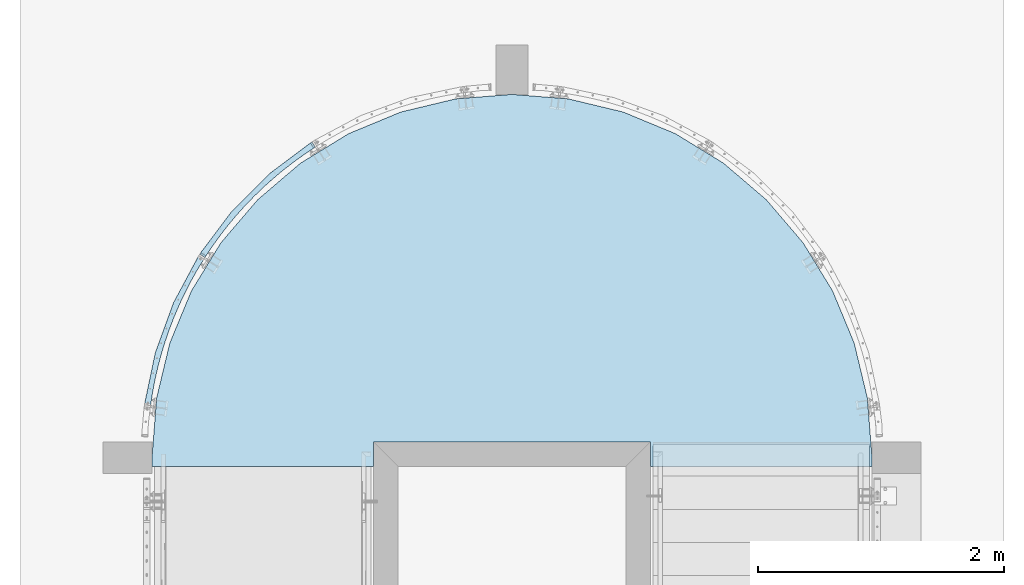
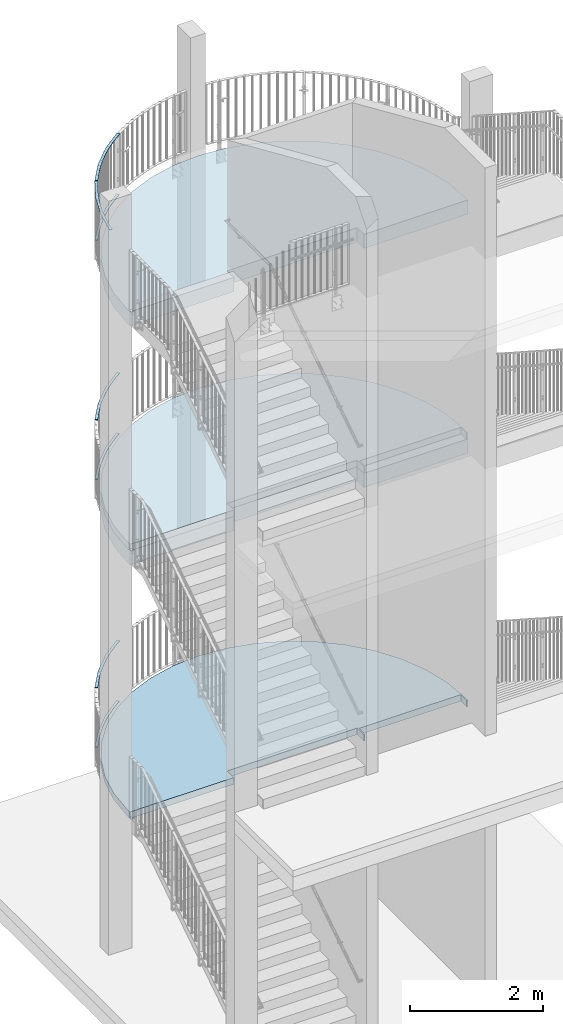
# One storey, part 104 of 296: 7 plates, 4 slabs, 28 openings.
"""IFC2X3 building model written with IfcOpenShell, lengths in millimetres."""

from ifc_helpers import new_model, entity, si_unit, converted_unit, point, frame, frame_2d, origin, origin_with_axes, place, context, project, spatial, polyline, circle_curve, line_curve, trimmed, segment, composite_curve, outline, extrude, material, layer, layer_set, element, save


model = new_model("IFC2X3")

# Units and contexts
model_context = context("Model", 3, precision=1e-09, world=origin_with_axes())
ifc_project = project(units=[si_unit("LENGTHUNIT", "METRE", prefix="MILLI"), si_unit("AREAUNIT", "SQUARE_METRE"), si_unit("VOLUMEUNIT", "CUBIC_METRE"), converted_unit("PLANEANGLEUNIT", "DEGREE", entity("IfcPlaneAngleMeasure", 0.01745329), si_unit("PLANEANGLEUNIT", "RADIAN"), dimensions=[0, 0, 0, 0, 0, 0, 0])], contexts=[model_context])

# Site, building, storey
site_placement = place(None, origin_with_axes())
site = spatial("IfcSite", under=ifc_project, at=site_placement, Name="TZD-S?d | Treppenhausgel?nder", CompositionType="ELEMENT")
building_placement = place(site_placement, origin_with_axes())
building = spatial("IfcBuilding", under=site, at=building_placement, Name="Struktur 1", CompositionType="ELEMENT")
storey_placement = place(building_placement, origin_with_axes())
storey = spatial("IfcBuildingStorey", under=building, at=storey_placement, Name="Default Storey", CompositionType="ELEMENT", Elevation=0.0)

# Plate, openings
ifc_material_1 = material(Name="S235JR")
ifc_layer_1 = layer(ifc_material_1, 10.0)
ifc_layer_set_1 = layer_set([ifc_layer_1], Name="S235JR")
plate_1_placement = place(None, frame((386.212405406, 1526.278742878, 8440.0), z_axis=(0.0, 0.0, 1.0), x_axis=(0.843391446, -0.537299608, 0.0)))
plate_1 = element("IfcPlate", 1, at=plate_1_placement, inside=storey, material=ifc_layer_set_1, Name="Girder", ObjectType="Girder", context=model_context, shape_type="SweptSolid", body=[
    extrude(outline(polyline([(0.0, 0.0), (50.000157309, 0.0), (3014.990671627, -7.500000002), (324.627043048, 1238.761828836), (279.311511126, 1259.892808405), (1.643147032, 660.543062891), (0.0, 0.0)])), origin_with_axes(), (0.0, 0.0, 1.0), 10.0),
])
opening_1_placement = place(plate_1_placement, frame((0.0, 0.0, -0.01), z_axis=(0.0, 0.0, 1.0), x_axis=(1.0, 0.0, 0.0)))
element("IfcOpeningElement", 2, at=opening_1_placement, cuts=plate_1, ObjectType="Opening", context=model_context, shape_type="SweptSolid", body=[
    extrude(outline(composite_curve([segment(trimmed(line_curve((3014.990671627, -7.500000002), (-0.907373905, 0.420324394), 2965.0), [point((3014.990671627, -7.500000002))], [point((324.627043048, 1238.761828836))], True, "CARTESIAN"), True, "CONTINUOUS"), segment(trimmed(circle_curve(frame_2d((3014.990671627, -7.500000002), x_axis=(1.0, 0.0)), 2965.0), [point((324.627043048, 1238.761828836))], [point((50.000157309, 0.0))], True, "CARTESIAN"), True, "CONTINUOUS"), segment(trimmed(line_curve((50.000157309, 0.0), (0.999996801, -0.002529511), 2965.0), [point((50.000157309, 0.0))], [point((3014.990671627, -7.500000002))], True, "CARTESIAN"), True, "CONTINUOUS")], self_intersect=False)), origin(), (0.0, 0.0, 1.0), 10.02),
])
opening_2_placement = place(plate_1_placement, frame((0.0, 0.0, -0.01), z_axis=(0.0, 0.0, 1.0), x_axis=(1.0, 0.0, 0.0)))
element("IfcOpeningElement", 3, at=opening_2_placement, cuts=plate_1, ObjectType="Opening", context=model_context, shape_type="SweptSolid", body=[
    extrude(outline(composite_curve([segment(trimmed(line_curve((1.643147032, 660.543062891), (-0.002487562, -0.999996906), 660.54510661), [point((1.643147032, 660.543062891))], [point((0.0, 0.0))], True, "CARTESIAN"), True, "CONTINUOUS"), segment(trimmed(circle_curve(frame_2d((3014.990671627, -7.500000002), x_axis=(-1.0, 0.0)), 3015.0), [point((0.0, 0.0))], [point((279.311511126, 1259.892808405))], False, "CARTESIAN"), True, "CONTINUOUS"), segment(trimmed(line_curve((279.311511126, 1259.892808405), (-0.420362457, -0.907356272), 660.54510661), [point((279.311511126, 1259.892808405))], [point((1.643147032, 660.543062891))], True, "CARTESIAN"), True, "CONTINUOUS")], self_intersect=False)), origin(), (0.0, 0.0, 1.0), 10.02),
])

plate_2_placement = place(None, frame((436.505606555, 1512.023775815, 7350.0), z_axis=(0.0, 0.0, -1.0), x_axis=(-0.843391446, 0.537299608, 0.0)))
plate_2 = element("IfcPlate", 4, at=plate_2_placement, inside=storey, material=ifc_layer_set_1, Name="-", ObjectType="-", context=model_context, shape_type="SweptSolid", body=[
    extrude(outline(polyline([(0.0, 0.0), (50.001415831, 0.0), (45.189162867, 644.823944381), (-222.963829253, 1231.266652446), (-268.280501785, 1210.135141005), (-2964.914627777, -22.499999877), (0.0, 0.0)])), origin_with_axes(), (0.0, 0.0, 1.0), 10.0),
])
opening_3_placement = place(plate_2_placement, frame((0.0, 0.0, -0.01), z_axis=(0.0, 0.0, 1.0), x_axis=(1.0, 0.0, 0.0)))
element("IfcOpeningElement", 5, at=opening_3_placement, cuts=plate_2, ObjectType="Opening", context=model_context, shape_type="SweptSolid", body=[
    extrude(outline(composite_curve([segment(trimmed(line_curve((45.189162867, 644.823944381), (-0.415843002, 0.909436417), 644.841900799), [point((45.189162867, 644.823944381))], [point((-222.963829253, 1231.266652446))], True, "CARTESIAN"), True, "CONTINUOUS"), segment(trimmed(circle_curve(frame_2d((-2964.914627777, -22.499999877), x_axis=(-1.0, 0.0)), 3015.0), [point((-222.963829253, 1231.266652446))], [point((50.001415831, 0.0))], False, "CARTESIAN"), True, "CONTINUOUS"), segment(trimmed(line_curve((50.001415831, 0.0), (-0.007462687, 0.999972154), 644.841900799), [point((50.001415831, 0.0))], [point((45.189162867, 644.823944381))], True, "CARTESIAN"), True, "CONTINUOUS")], self_intersect=False)), origin(), (0.0, 0.0, 1.0), 10.02),
])
opening_4_placement = place(plate_2_placement, frame((0.0, 0.0, -0.01), z_axis=(0.0, 0.0, 1.0), x_axis=(1.0, 0.0, 0.0)))
element("IfcOpeningElement", 6, at=opening_4_placement, cuts=plate_2, ObjectType="Opening", context=model_context, shape_type="SweptSolid", body=[
    extrude(outline(composite_curve([segment(trimmed(line_curve((-2964.914627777, -22.499999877), (0.999971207, 0.007588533), 2965.0), [point((-2964.914627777, -22.499999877))], [point((0.0, 0.0))], True, "CARTESIAN"), True, "CONTINUOUS"), segment(trimmed(circle_curve(frame_2d((-2964.914627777, -22.499999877), x_axis=(1.0, 0.0)), 2965.0), [point((0.0, 0.0))], [point((-268.280501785, 1210.135141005))], True, "CARTESIAN"), True, "CONTINUOUS"), segment(trimmed(line_curve((-268.280501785, 1210.135141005), (-0.909488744, -0.415728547), 2965.0), [point((-268.280501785, 1210.135141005))], [point((-2964.914627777, -22.499999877))], True, "CARTESIAN"), True, "CONTINUOUS")], self_intersect=False)), origin(), (0.0, 0.0, 1.0), 10.02),
])

plate_3_placement = place(None, frame((386.212405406, 1526.278742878, 3540.0), z_axis=(0.0, 0.0, 1.0), x_axis=(0.843391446, -0.537299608, 0.0)))
plate_3 = element("IfcPlate", 7, at=plate_3_placement, inside=storey, material=ifc_layer_set_1, Name="Girder", ObjectType="Girder", context=model_context, shape_type="SweptSolid", body=[
    extrude(outline(polyline([(0.0, 0.0), (50.000157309, 0.0), (3014.990671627, -7.500000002), (324.627043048, 1238.761828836), (279.311511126, 1259.892808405), (1.643147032, 660.543062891), (0.0, 0.0)])), origin_with_axes(), (0.0, 0.0, 1.0), 10.0),
])
opening_5_placement = place(plate_3_placement, frame((0.0, 0.0, -0.01), z_axis=(0.0, 0.0, 1.0), x_axis=(1.0, 0.0, 0.0)))
element("IfcOpeningElement", 8, at=opening_5_placement, cuts=plate_3, ObjectType="Opening", context=model_context, shape_type="SweptSolid", body=[
    extrude(outline(composite_curve([segment(trimmed(line_curve((3014.990671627, -7.500000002), (-0.907373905, 0.420324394), 2965.0), [point((3014.990671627, -7.500000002))], [point((324.627043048, 1238.761828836))], True, "CARTESIAN"), True, "CONTINUOUS"), segment(trimmed(circle_curve(frame_2d((3014.990671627, -7.500000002), x_axis=(1.0, 0.0)), 2965.0), [point((324.627043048, 1238.761828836))], [point((50.000157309, 0.0))], True, "CARTESIAN"), True, "CONTINUOUS"), segment(trimmed(line_curve((50.000157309, 0.0), (0.999996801, -0.002529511), 2965.0), [point((50.000157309, 0.0))], [point((3014.990671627, -7.500000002))], True, "CARTESIAN"), True, "CONTINUOUS")], self_intersect=False)), origin(), (0.0, 0.0, 1.0), 10.02),
])
opening_6_placement = place(plate_3_placement, frame((0.0, 0.0, -0.01), z_axis=(0.0, 0.0, 1.0), x_axis=(1.0, 0.0, 0.0)))
element("IfcOpeningElement", 9, at=opening_6_placement, cuts=plate_3, ObjectType="Opening", context=model_context, shape_type="SweptSolid", body=[
    extrude(outline(composite_curve([segment(trimmed(line_curve((1.643147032, 660.543062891), (-0.002487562, -0.999996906), 660.54510661), [point((1.643147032, 660.543062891))], [point((0.0, 0.0))], True, "CARTESIAN"), True, "CONTINUOUS"), segment(trimmed(circle_curve(frame_2d((3014.990671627, -7.500000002), x_axis=(-1.0, 0.0)), 3015.0), [point((0.0, 0.0))], [point((279.311511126, 1259.892808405))], False, "CARTESIAN"), True, "CONTINUOUS"), segment(trimmed(line_curve((279.311511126, 1259.892808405), (-0.420362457, -0.907356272), 660.54510661), [point((279.311511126, 1259.892808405))], [point((1.643147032, 660.543062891))], True, "CARTESIAN"), True, "CONTINUOUS")], self_intersect=False)), origin(), (0.0, 0.0, 1.0), 10.02),
])

plate_4_placement = place(None, frame((436.505606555, 1512.023775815, 2450.0), z_axis=(0.0, 0.0, -1.0), x_axis=(-0.843391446, 0.537299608, 0.0)))
plate_4 = element("IfcPlate", 10, at=plate_4_placement, inside=storey, material=ifc_layer_set_1, Name="-", ObjectType="-", context=model_context, shape_type="SweptSolid", body=[
    extrude(outline(polyline([(0.0, 0.0), (50.001415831, 0.0), (45.189162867, 644.823944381), (-222.963829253, 1231.266652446), (-268.280501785, 1210.135141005), (-2964.914627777, -22.499999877), (0.0, 0.0)])), origin_with_axes(), (0.0, 0.0, 1.0), 10.0),
])
opening_7_placement = place(plate_4_placement, frame((0.0, 0.0, -0.01), z_axis=(0.0, 0.0, 1.0), x_axis=(1.0, 0.0, 0.0)))
element("IfcOpeningElement", 11, at=opening_7_placement, cuts=plate_4, ObjectType="Opening", context=model_context, shape_type="SweptSolid", body=[
    extrude(outline(composite_curve([segment(trimmed(line_curve((45.189162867, 644.823944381), (-0.415843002, 0.909436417), 644.841900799), [point((45.189162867, 644.823944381))], [point((-222.963829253, 1231.266652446))], True, "CARTESIAN"), True, "CONTINUOUS"), segment(trimmed(circle_curve(frame_2d((-2964.914627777, -22.499999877), x_axis=(-1.0, 0.0)), 3015.0), [point((-222.963829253, 1231.266652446))], [point((50.001415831, 0.0))], False, "CARTESIAN"), True, "CONTINUOUS"), segment(trimmed(line_curve((50.001415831, 0.0), (-0.007462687, 0.999972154), 644.841900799), [point((50.001415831, 0.0))], [point((45.189162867, 644.823944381))], True, "CARTESIAN"), True, "CONTINUOUS")], self_intersect=False)), origin(), (0.0, 0.0, 1.0), 10.02),
])
opening_8_placement = place(plate_4_placement, frame((0.0, 0.0, -0.01), z_axis=(0.0, 0.0, 1.0), x_axis=(1.0, 0.0, 0.0)))
element("IfcOpeningElement", 12, at=opening_8_placement, cuts=plate_4, ObjectType="Opening", context=model_context, shape_type="SweptSolid", body=[
    extrude(outline(composite_curve([segment(trimmed(line_curve((-2964.914627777, -22.499999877), (0.999971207, 0.007588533), 2965.0), [point((-2964.914627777, -22.499999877))], [point((0.0, 0.0))], True, "CARTESIAN"), True, "CONTINUOUS"), segment(trimmed(circle_curve(frame_2d((-2964.914627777, -22.499999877), x_axis=(1.0, 0.0)), 2965.0), [point((0.0, 0.0))], [point((-268.280501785, 1210.135141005))], True, "CARTESIAN"), True, "CONTINUOUS"), segment(trimmed(line_curve((-268.280501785, 1210.135141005), (-0.909488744, -0.415728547), 2965.0), [point((-268.280501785, 1210.135141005))], [point((-2964.914627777, -22.499999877))], True, "CARTESIAN"), True, "CONTINUOUS")], self_intersect=False)), origin(), (0.0, 0.0, 1.0), 10.02),
])

plate_5_placement = place(None, frame((436.505606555, 1512.023775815, 11725.0), z_axis=(0.0, 0.0, -1.0), x_axis=(-0.843391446, 0.537299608, 0.0)))
plate_5 = element("IfcPlate", 13, at=plate_5_placement, inside=storey, material=ifc_layer_set_1, Name="-", ObjectType="-", context=model_context, shape_type="SweptSolid", body=[
    extrude(outline(polyline([(0.0, 0.0), (50.001415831, 0.0), (45.189162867, 644.823944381), (-222.963829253, 1231.266652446), (-268.280501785, 1210.135141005), (-2964.914627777, -22.499999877), (0.0, 0.0)])), origin_with_axes(), (0.0, 0.0, 1.0), 10.0),
])
opening_9_placement = place(plate_5_placement, frame((0.0, 0.0, -0.01), z_axis=(0.0, 0.0, 1.0), x_axis=(1.0, 0.0, 0.0)))
element("IfcOpeningElement", 14, at=opening_9_placement, cuts=plate_5, ObjectType="Opening", context=model_context, shape_type="SweptSolid", body=[
    extrude(outline(composite_curve([segment(trimmed(line_curve((45.189162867, 644.823944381), (-0.415843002, 0.909436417), 644.841900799), [point((45.189162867, 644.823944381))], [point((-222.963829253, 1231.266652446))], True, "CARTESIAN"), True, "CONTINUOUS"), segment(trimmed(circle_curve(frame_2d((-2964.914627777, -22.499999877), x_axis=(-1.0, 0.0)), 3015.0), [point((-222.963829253, 1231.266652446))], [point((50.001415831, 0.0))], False, "CARTESIAN"), True, "CONTINUOUS"), segment(trimmed(line_curve((50.001415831, 0.0), (-0.007462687, 0.999972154), 644.841900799), [point((50.001415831, 0.0))], [point((45.189162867, 644.823944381))], True, "CARTESIAN"), True, "CONTINUOUS")], self_intersect=False)), origin(), (0.0, 0.0, 1.0), 10.02),
])
opening_10_placement = place(plate_5_placement, frame((0.0, 0.0, -0.01), z_axis=(0.0, 0.0, 1.0), x_axis=(1.0, 0.0, 0.0)))
element("IfcOpeningElement", 15, at=opening_10_placement, cuts=plate_5, ObjectType="Opening", context=model_context, shape_type="SweptSolid", body=[
    extrude(outline(composite_curve([segment(trimmed(line_curve((-2964.914627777, -22.499999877), (0.999971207, 0.007588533), 2965.0), [point((-2964.914627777, -22.499999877))], [point((0.0, 0.0))], True, "CARTESIAN"), True, "CONTINUOUS"), segment(trimmed(circle_curve(frame_2d((-2964.914627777, -22.499999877), x_axis=(1.0, 0.0)), 2965.0), [point((0.0, 0.0))], [point((-268.280501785, 1210.135141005))], True, "CARTESIAN"), True, "CONTINUOUS"), segment(trimmed(line_curve((-268.280501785, 1210.135141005), (-0.909488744, -0.415728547), 2965.0), [point((-268.280501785, 1210.135141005))], [point((-2964.914627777, -22.499999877))], True, "CARTESIAN"), True, "CONTINUOUS")], self_intersect=False)), origin(), (0.0, 0.0, 1.0), 10.02),
])

plate_6_placement = place(None, frame((386.212405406, 1526.278742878, 12815.0), z_axis=(0.0, 0.0, 1.0), x_axis=(0.843391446, -0.537299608, 0.0)))
plate_6 = element("IfcPlate", 16, at=plate_6_placement, inside=storey, material=ifc_layer_set_1, Name="Girder", ObjectType="Girder", context=model_context, shape_type="SweptSolid", body=[
    extrude(outline(polyline([(0.0, 0.0), (50.000157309, 0.0), (3014.990671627, -7.500000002), (324.627043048, 1238.761828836), (279.311511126, 1259.892808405), (1.643147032, 660.543062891), (0.0, 0.0)])), origin_with_axes(), (0.0, 0.0, 1.0), 10.0),
])
opening_11_placement = place(plate_6_placement, frame((0.0, 0.0, -0.01), z_axis=(0.0, 0.0, 1.0), x_axis=(1.0, 0.0, 0.0)))
element("IfcOpeningElement", 17, at=opening_11_placement, cuts=plate_6, ObjectType="Opening", context=model_context, shape_type="SweptSolid", body=[
    extrude(outline(composite_curve([segment(trimmed(line_curve((3014.990671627, -7.500000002), (-0.907373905, 0.420324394), 2965.0), [point((3014.990671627, -7.500000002))], [point((324.627043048, 1238.761828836))], True, "CARTESIAN"), True, "CONTINUOUS"), segment(trimmed(circle_curve(frame_2d((3014.990671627, -7.500000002), x_axis=(1.0, 0.0)), 2965.0), [point((324.627043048, 1238.761828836))], [point((50.000157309, 0.0))], True, "CARTESIAN"), True, "CONTINUOUS"), segment(trimmed(line_curve((50.000157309, 0.0), (0.999996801, -0.002529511), 2965.0), [point((50.000157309, 0.0))], [point((3014.990671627, -7.500000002))], True, "CARTESIAN"), True, "CONTINUOUS")], self_intersect=False)), origin(), (0.0, 0.0, 1.0), 10.02),
])
opening_12_placement = place(plate_6_placement, frame((0.0, 0.0, -0.01), z_axis=(0.0, 0.0, 1.0), x_axis=(1.0, 0.0, 0.0)))
element("IfcOpeningElement", 18, at=opening_12_placement, cuts=plate_6, ObjectType="Opening", context=model_context, shape_type="SweptSolid", body=[
    extrude(outline(composite_curve([segment(trimmed(line_curve((1.643147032, 660.543062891), (-0.002487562, -0.999996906), 660.54510661), [point((1.643147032, 660.543062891))], [point((0.0, 0.0))], True, "CARTESIAN"), True, "CONTINUOUS"), segment(trimmed(circle_curve(frame_2d((3014.990671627, -7.500000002), x_axis=(-1.0, 0.0)), 3015.0), [point((0.0, 0.0))], [point((279.311511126, 1259.892808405))], False, "CARTESIAN"), True, "CONTINUOUS"), segment(trimmed(line_curve((279.311511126, 1259.892808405), (-0.420362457, -0.907356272), 660.54510661), [point((279.311511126, 1259.892808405))], [point((1.643147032, 660.543062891))], True, "CARTESIAN"), True, "CONTINUOUS")], self_intersect=False)), origin(), (0.0, 0.0, 1.0), 10.02),
])

plate_7_placement = place(None, frame((-13.645663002, 294.444758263, 12815.0), z_axis=(0.0, 0.0, 1.0), x_axis=(0.133033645, 0.991111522, 0.0)))
plate_7 = element("IfcPlate", 19, at=plate_7_placement, inside=storey, material=ifc_layer_set_1, Name="Girder", ObjectType="Girder", context=model_context, shape_type="SweptSolid", body=[
    extrude(outline(polyline([(0.0, 0.0), (0.0, -2965.0), (1239.452537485, -271.492545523), (1260.468823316, -226.123707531), (660.418630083, 50.027706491), (-0.126475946, 49.999997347), (0.0, 0.0)])), origin_with_axes(), (0.0, 0.0, 1.0), 10.0),
])
opening_13_placement = place(plate_7_placement, frame((0.0, 0.0, -0.01), z_axis=(0.0, 0.0, 1.0), x_axis=(1.0, 0.0, 0.0)))
element("IfcOpeningElement", 20, at=opening_13_placement, cuts=plate_7, ObjectType="Opening", context=model_context, shape_type="SweptSolid", body=[
    extrude(outline(composite_curve([segment(trimmed(line_curve((0.0, -2965.0), (0.418027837, 0.908434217), 2965.0), [point((0.0, -2965.0))], [point((1239.452537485, -271.492545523))], True, "CARTESIAN"), True, "CONTINUOUS"), segment(trimmed(circle_curve(frame_2d((0.0, -2965.0), x_axis=(1.0, 0.0)), 2965.0), [point((1239.452537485, -271.492545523))], [point((0.0, 0.0))], True, "CARTESIAN"), True, "CONTINUOUS"), segment(trimmed(line_curve((0.0, 0.0), (0.0, -1.0), 2965.0), [point((0.0, 0.0))], [point((0.0, -2965.0))], True, "CARTESIAN"), True, "CONTINUOUS")], self_intersect=False)), origin(), (0.0, 0.0, 1.0), 10.02),
])
opening_14_placement = place(plate_7_placement, frame((0.0, 0.0, -0.01), z_axis=(0.0, 0.0, 1.0), x_axis=(1.0, 0.0, 0.0)))
element("IfcOpeningElement", 21, at=opening_14_placement, cuts=plate_7, ObjectType="Opening", context=model_context, shape_type="SweptSolid", body=[
    extrude(outline(composite_curve([segment(trimmed(line_curve((660.418630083, 50.027706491), (-0.999999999, -4.1949e-05), 660.54510661), [point((660.418630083, 50.027706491))], [point((-0.126475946, 49.999997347))], True, "CARTESIAN"), True, "CONTINUOUS"), segment(trimmed(circle_curve(frame_2d((0.0, -2965.0), x_axis=(-1.0, 0.0)), 3015.0), [point((-0.126475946, 49.999997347))], [point((1260.468823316, -226.123707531))], False, "CARTESIAN"), True, "CONTINUOUS"), segment(trimmed(line_curve((1260.468823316, -226.123707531), (-0.908416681, 0.418065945), 660.54510661), [point((1260.468823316, -226.123707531))], [point((660.418630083, 50.027706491))], True, "CARTESIAN"), True, "CONTINUOUS")], self_intersect=False)), origin(), (0.0, 0.0, 1.0), 10.02),
])

# Slab, openings
ifc_material_2 = material(Name="C25/30")
ifc_layer_2 = layer(ifc_material_2, 120.0)
ifc_layer_set_2 = layer_set([ifc_layer_2], Name="C25/30")
slab_1_placement = place(None, frame((2925.0, 1312.5, 2330.0), z_axis=(0.0, 0.0, 1.0), x_axis=(0.0, -1.0, 0.0)))
slab_1 = element("IfcSlab", 22, at=slab_1_placement, inside=storey, material=ifc_layer_set_2, Name="-", ObjectType="-", context=model_context, shape_type="SweptSolid", body=[
    extrude(outline(polyline([(-1512.5, -2925.0), (1512.5, -2925.0), (1512.5, 2925.0), (-1512.5, 2925.0), (-1512.5, -2925.0)])), origin_with_axes(), (0.0, 0.0, 1.0), 120.0),
])
opening_15_placement = place(slab_1_placement, frame((0.0, 1462.5, -0.01), z_axis=(0.0, 0.0, 1.0), x_axis=(1.0, 0.0, 0.0)))
element("IfcOpeningElement", 23, at=opening_15_placement, cuts=slab_1, ObjectType="Opening", context=model_context, shape_type="SweptSolid", body=[
    extrude(outline(composite_curve([segment(trimmed(line_curve((-1512.5, -4387.5), (1.0, 0.0), 2925.000000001), [point((-1512.5, -4387.5))], [point((1412.500000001, -4387.5))], True, "CARTESIAN"), True, "CONTINUOUS"), segment(trimmed(circle_curve(frame_2d((1412.500000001, -1462.499999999), x_axis=(-1.0, 0.0)), 2925.000000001), [point((1412.500000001, -4387.5))], [point((-1512.5, -1462.499999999))], False, "CARTESIAN"), True, "CONTINUOUS"), segment(trimmed(line_curve((-1512.5, -1462.499999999), (0.0, -1.0), 2925.000000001), [point((-1512.5, -1462.499999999))], [point((-1512.5, -4387.5))], True, "CARTESIAN"), True, "CONTINUOUS")], self_intersect=False)), origin(), (0.0, 0.0, 1.0), 120.02),
])
opening_16_placement = place(slab_1_placement, frame((0.0, 1462.5, -0.01), z_axis=(0.0, 0.0, 1.0), x_axis=(1.0, 0.0, 0.0)))
element("IfcOpeningElement", 24, at=opening_16_placement, cuts=slab_1, ObjectType="Opening", context=model_context, shape_type="SweptSolid", body=[
    extrude(outline(composite_curve([segment(trimmed(line_curve((-1512.5, 1462.5), (0.0, -1.0), 2925.000000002), [point((-1512.5, 1462.5))], [point((-1512.5, -1462.500000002))], True, "CARTESIAN"), True, "CONTINUOUS"), segment(trimmed(circle_curve(frame_2d((1412.500000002, -1462.500000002), x_axis=(-1.0, 0.0)), 2925.000000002), [point((-1512.5, -1462.500000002))], [point((1412.500000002, 1462.5))], False, "CARTESIAN"), True, "CONTINUOUS"), segment(trimmed(line_curve((1412.500000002, 1462.5), (-1.0, 0.0), 2925.000000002), [point((1412.500000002, 1462.5))], [point((-1512.5, 1462.5))], True, "CARTESIAN"), True, "CONTINUOUS")], self_intersect=False)), origin(), (0.0, 0.0, 1.0), 120.02),
])
opening_17_placement = place(slab_1_placement, frame((0.0, 0.0, -0.1), z_axis=(0.0, 0.0, 1.0), x_axis=(1.0, 0.0, 0.0)))
element("IfcOpeningElement", 25, at=opening_17_placement, cuts=slab_1, ObjectType="Opening", context=model_context, shape_type="SweptSolid", body=[
    extrude(outline(polyline([(1312.499, -1125.001), (1748.295882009, -1125.001), (1748.295882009, 1125.001), (1312.499, 1125.001), (1312.499, -1125.001)])), origin(), (0.0, 0.0, 1.0), 120.2),
])
opening_18_placement = place(slab_1_placement, frame((0.0, 0.0, -0.1), z_axis=(0.0, 0.0, 1.0), x_axis=(1.0, 0.0, 0.0)))
element("IfcOpeningElement", 26, at=opening_18_placement, cuts=slab_1, ObjectType="Opening", context=model_context, shape_type="SweptSolid", body=[
    extrude(outline(polyline([(1333.91008357, 1144.998), (1978.125740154, 1144.998), (1978.125740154, 2905.0), (1333.91008357, 2905.0), (1333.91008357, 1144.998)])), origin(), (0.0, 0.0, 1.0), 120.2),
])

ifc_layer_3 = layer(ifc_material_2, 260.0)
ifc_layer_set_3 = layer_set([ifc_layer_3], Name="C25/30")
slab_2_placement = place(None, frame((2925.0, 1312.5, 6970.0), z_axis=(0.0, 0.0, 1.0), x_axis=(0.0, -1.0, 0.0)))
slab_2 = element("IfcSlab", 27, at=slab_2_placement, inside=storey, material=ifc_layer_set_3, Name="-", ObjectType="-", context=model_context, shape_type="SweptSolid", body=[
    extrude(outline(polyline([(-1512.5, -2925.0), (1512.5, -2925.0), (1512.5, 2925.0), (-1512.5, 2925.0), (-1512.5, -2925.0)])), origin_with_axes(), (0.0, 0.0, 1.0), 260.0),
])
opening_19_placement = place(slab_2_placement, frame((0.0, 1462.5, -0.01), z_axis=(0.0, 0.0, 1.0), x_axis=(1.0, 0.0, 0.0)))
element("IfcOpeningElement", 28, at=opening_19_placement, cuts=slab_2, ObjectType="Opening", context=model_context, shape_type="SweptSolid", body=[
    extrude(outline(composite_curve([segment(trimmed(line_curve((-1512.5, -4387.5), (1.0, 0.0), 2925.000000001), [point((-1512.5, -4387.5))], [point((1412.500000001, -4387.5))], True, "CARTESIAN"), True, "CONTINUOUS"), segment(trimmed(circle_curve(frame_2d((1412.500000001, -1462.499999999), x_axis=(-1.0, 0.0)), 2925.000000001), [point((1412.500000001, -4387.5))], [point((-1512.5, -1462.499999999))], False, "CARTESIAN"), True, "CONTINUOUS"), segment(trimmed(line_curve((-1512.5, -1462.499999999), (0.0, -1.0), 2925.000000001), [point((-1512.5, -1462.499999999))], [point((-1512.5, -4387.5))], True, "CARTESIAN"), True, "CONTINUOUS")], self_intersect=False)), origin(), (0.0, 0.0, 1.0), 260.02),
])
opening_20_placement = place(slab_2_placement, frame((0.0, 1462.5, -0.01), z_axis=(0.0, 0.0, 1.0), x_axis=(1.0, 0.0, 0.0)))
element("IfcOpeningElement", 29, at=opening_20_placement, cuts=slab_2, ObjectType="Opening", context=model_context, shape_type="SweptSolid", body=[
    extrude(outline(composite_curve([segment(trimmed(line_curve((-1512.5, 1462.5), (0.0, -1.0), 2925.000000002), [point((-1512.5, 1462.5))], [point((-1512.5, -1462.500000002))], True, "CARTESIAN"), True, "CONTINUOUS"), segment(trimmed(circle_curve(frame_2d((1412.500000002, -1462.500000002), x_axis=(-1.0, 0.0)), 2925.000000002), [point((-1512.5, -1462.500000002))], [point((1412.500000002, 1462.5))], False, "CARTESIAN"), True, "CONTINUOUS"), segment(trimmed(line_curve((1412.500000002, 1462.5), (-1.0, 0.0), 2925.000000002), [point((1412.500000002, 1462.5))], [point((-1512.5, 1462.5))], True, "CARTESIAN"), True, "CONTINUOUS")], self_intersect=False)), origin(), (0.0, 0.0, 1.0), 260.02),
])
opening_21_placement = place(slab_2_placement, frame((0.0, 0.0, -0.1), z_axis=(0.0, 0.0, 1.0), x_axis=(1.0, 0.0, 0.0)))
element("IfcOpeningElement", 30, at=opening_21_placement, cuts=slab_2, ObjectType="Opening", context=model_context, shape_type="SweptSolid", body=[
    extrude(outline(polyline([(1312.499, -1125.001), (1748.295882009, -1125.001), (1748.295882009, 1125.001), (1312.499, 1125.001), (1312.499, -1125.001)])), origin(), (0.0, 0.0, 1.0), 260.2),
])

slab_3_placement = place(None, frame((2925.0, 1312.5, 7230.0), z_axis=(0.0, 0.0, 1.0), x_axis=(0.0, -1.0, 0.0)))
slab_3 = element("IfcSlab", 31, at=slab_3_placement, inside=storey, material=ifc_layer_set_2, Name="-", ObjectType="-", context=model_context, shape_type="SweptSolid", body=[
    extrude(outline(polyline([(-1512.5, -2925.0), (1512.5, -2925.0), (1512.5, 2925.0), (-1512.5, 2925.0), (-1512.5, -2925.0)])), origin_with_axes(), (0.0, 0.0, 1.0), 120.0),
])
opening_22_placement = place(slab_3_placement, frame((0.0, 1462.5, -0.01), z_axis=(0.0, 0.0, 1.0), x_axis=(1.0, 0.0, 0.0)))
element("IfcOpeningElement", 32, at=opening_22_placement, cuts=slab_3, ObjectType="Opening", context=model_context, shape_type="SweptSolid", body=[
    extrude(outline(composite_curve([segment(trimmed(line_curve((-1512.5, -4387.5), (1.0, 0.0), 2925.000000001), [point((-1512.5, -4387.5))], [point((1412.500000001, -4387.5))], True, "CARTESIAN"), True, "CONTINUOUS"), segment(trimmed(circle_curve(frame_2d((1412.500000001, -1462.499999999), x_axis=(-1.0, 0.0)), 2925.000000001), [point((1412.500000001, -4387.5))], [point((-1512.5, -1462.499999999))], False, "CARTESIAN"), True, "CONTINUOUS"), segment(trimmed(line_curve((-1512.5, -1462.499999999), (0.0, -1.0), 2925.000000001), [point((-1512.5, -1462.499999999))], [point((-1512.5, -4387.5))], True, "CARTESIAN"), True, "CONTINUOUS")], self_intersect=False)), origin(), (0.0, 0.0, 1.0), 120.02),
])
opening_23_placement = place(slab_3_placement, frame((0.0, 1462.5, -0.01), z_axis=(0.0, 0.0, 1.0), x_axis=(1.0, 0.0, 0.0)))
element("IfcOpeningElement", 33, at=opening_23_placement, cuts=slab_3, ObjectType="Opening", context=model_context, shape_type="SweptSolid", body=[
    extrude(outline(composite_curve([segment(trimmed(line_curve((-1512.5, 1462.5), (0.0, -1.0), 2925.000000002), [point((-1512.5, 1462.5))], [point((-1512.5, -1462.500000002))], True, "CARTESIAN"), True, "CONTINUOUS"), segment(trimmed(circle_curve(frame_2d((1412.500000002, -1462.500000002), x_axis=(-1.0, 0.0)), 2925.000000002), [point((-1512.5, -1462.500000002))], [point((1412.500000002, 1462.5))], False, "CARTESIAN"), True, "CONTINUOUS"), segment(trimmed(line_curve((1412.500000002, 1462.5), (-1.0, 0.0), 2925.000000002), [point((1412.500000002, 1462.5))], [point((-1512.5, 1462.5))], True, "CARTESIAN"), True, "CONTINUOUS")], self_intersect=False)), origin(), (0.0, 0.0, 1.0), 120.02),
])
opening_24_placement = place(slab_3_placement, frame((0.0, 0.0, -0.1), z_axis=(0.0, 0.0, 1.0), x_axis=(1.0, 0.0, 0.0)))
element("IfcOpeningElement", 34, at=opening_24_placement, cuts=slab_3, ObjectType="Opening", context=model_context, shape_type="SweptSolid", body=[
    extrude(outline(polyline([(1312.499, -1125.001), (1748.295882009, -1125.001), (1748.295882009, 1125.001), (1312.499, 1125.001), (1312.499, -1125.001)])), origin(), (0.0, 0.0, 1.0), 120.2),
])
opening_25_placement = place(slab_3_placement, frame((0.0, 0.0, -0.1), z_axis=(0.0, 0.0, 1.0), x_axis=(1.0, 0.0, 0.0)))
element("IfcOpeningElement", 35, at=opening_25_placement, cuts=slab_3, ObjectType="Opening", context=model_context, shape_type="SweptSolid", body=[
    extrude(outline(polyline([(1344.865660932, 1144.998), (2080.485103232, 1144.998), (2080.485103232, 2905.0), (1344.865660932, 2905.0), (1344.865660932, 1144.998)])), origin(), (0.0, 0.0, 1.0), 120.2),
])

slab_4_placement = place(None, frame((2925.0, 1312.5, 11345.0), z_axis=(0.0, 0.0, 1.0), x_axis=(0.0, -1.0, 0.0)))
slab_4 = element("IfcSlab", 36, at=slab_4_placement, inside=storey, material=ifc_layer_set_3, Name="-", ObjectType="-", context=model_context, shape_type="SweptSolid", body=[
    extrude(outline(polyline([(-1512.5, -2925.0), (1512.5, -2925.0), (1512.5, 2925.0), (-1512.5, 2925.0), (-1512.5, -2925.0)])), origin_with_axes(), (0.0, 0.0, 1.0), 260.0),
])
opening_26_placement = place(slab_4_placement, frame((0.0, 1462.5, -0.01), z_axis=(0.0, 0.0, 1.0), x_axis=(1.0, 0.0, 0.0)))
element("IfcOpeningElement", 37, at=opening_26_placement, cuts=slab_4, ObjectType="Opening", context=model_context, shape_type="SweptSolid", body=[
    extrude(outline(composite_curve([segment(trimmed(line_curve((-1512.5, -4387.5), (1.0, 0.0), 2925.000000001), [point((-1512.5, -4387.5))], [point((1412.500000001, -4387.5))], True, "CARTESIAN"), True, "CONTINUOUS"), segment(trimmed(circle_curve(frame_2d((1412.500000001, -1462.499999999), x_axis=(-1.0, 0.0)), 2925.000000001), [point((1412.500000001, -4387.5))], [point((-1512.5, -1462.499999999))], False, "CARTESIAN"), True, "CONTINUOUS"), segment(trimmed(line_curve((-1512.5, -1462.499999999), (0.0, -1.0), 2925.000000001), [point((-1512.5, -1462.499999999))], [point((-1512.5, -4387.5))], True, "CARTESIAN"), True, "CONTINUOUS")], self_intersect=False)), origin(), (0.0, 0.0, 1.0), 260.02),
])
opening_27_placement = place(slab_4_placement, frame((0.0, 1462.5, -0.01), z_axis=(0.0, 0.0, 1.0), x_axis=(1.0, 0.0, 0.0)))
element("IfcOpeningElement", 38, at=opening_27_placement, cuts=slab_4, ObjectType="Opening", context=model_context, shape_type="SweptSolid", body=[
    extrude(outline(composite_curve([segment(trimmed(line_curve((-1512.5, 1462.5), (0.0, -1.0), 2925.000000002), [point((-1512.5, 1462.5))], [point((-1512.5, -1462.500000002))], True, "CARTESIAN"), True, "CONTINUOUS"), segment(trimmed(circle_curve(frame_2d((1412.500000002, -1462.500000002), x_axis=(-1.0, 0.0)), 2925.000000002), [point((-1512.5, -1462.500000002))], [point((1412.500000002, 1462.5))], False, "CARTESIAN"), True, "CONTINUOUS"), segment(trimmed(line_curve((1412.500000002, 1462.5), (-1.0, 0.0), 2925.000000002), [point((1412.500000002, 1462.5))], [point((-1512.5, 1462.5))], True, "CARTESIAN"), True, "CONTINUOUS")], self_intersect=False)), origin(), (0.0, 0.0, 1.0), 260.02),
])
opening_28_placement = place(slab_4_placement, frame((0.0, 0.0, -0.1), z_axis=(0.0, 0.0, 1.0), x_axis=(1.0, 0.0, 0.0)))
element("IfcOpeningElement", 39, at=opening_28_placement, cuts=slab_4, ObjectType="Opening", context=model_context, shape_type="SweptSolid", body=[
    extrude(outline(polyline([(1312.499, -1125.001), (1748.295882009, -1125.001), (1748.295882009, 1125.001), (1312.499, 1125.001), (1312.499, -1125.001)])), origin(), (0.0, 0.0, 1.0), 260.2),
])

save(model, "model.ifc")
